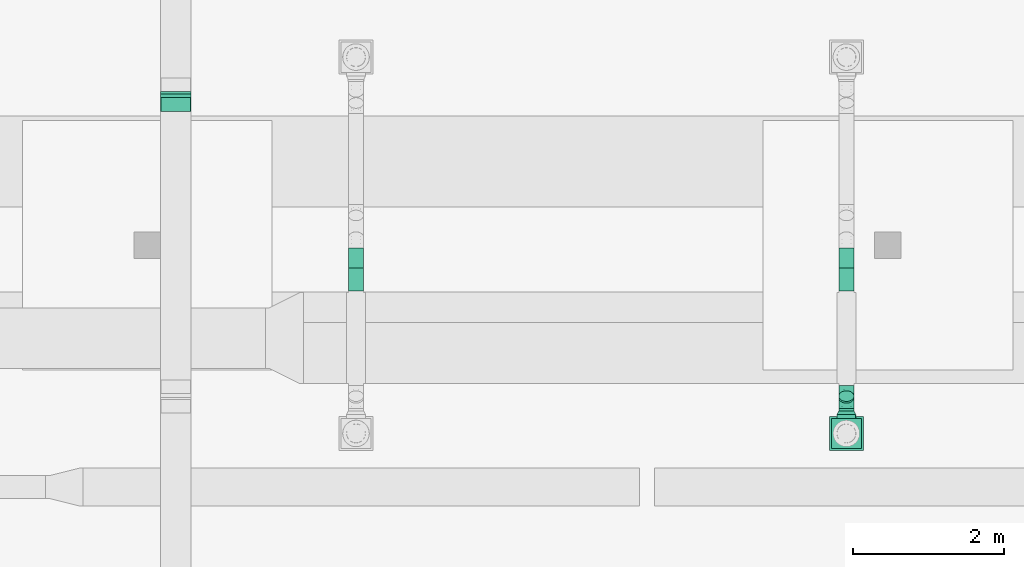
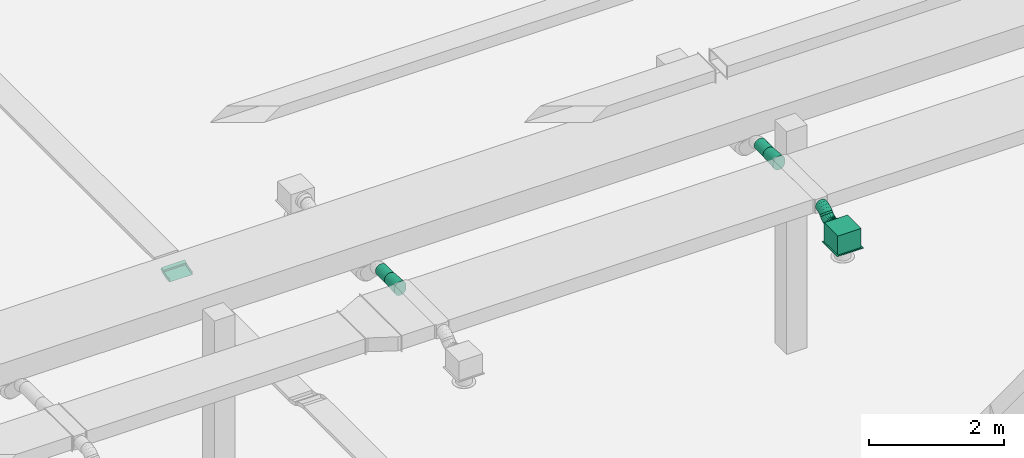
# One storey, part 277 of 302: 6 flow fittings, 5 flow segments, 1 flow terminal.
"""IFC2X3 building model written with IfcOpenShell, lengths in metres."""

import ifcopenshell
import ifcopenshell.guid

model = None  # the IFC model being written
_history = None  # IfcOwnerHistory: only IFC2X3 demands one
_inside = {}  # id of a spatial element -> (the spatial element, [elements in it])
_under = {}  # id of a project, library or spatial element -> (it, [spatial elements below it])
_declared = {}  # id of a project -> (the project, [libraries it declares])
_typed = {}  # id of a type object -> (the type object, [elements of that type])
_made_of = {}  # id of a material, layer set ... -> (it, [elements and type objects made of it])


def new_model(schema):
    """Start an empty IFC model of exactly this schema.

    Asked for "IFC4X3", IfcOpenShell would pick the latest addendum, in which some entities
    have other attributes; the version numbers below select the first issue.
    IFC2X3 requires an IfcOwnerHistory on every rooted entity: one is made here for all.
    """
    global model, _history
    if schema == "IFC4X3":
        model = ifcopenshell.file(schema_version=(4, 3, 0, 0))
    else:
        model = ifcopenshell.file(schema=schema)
    _inside.clear()
    _under.clear()
    _declared.clear()
    _typed.clear()
    _made_of.clear()
    _history = None
    if model.schema == "IFC2X3":
        org = make("IfcOrganization", Name="unknown")
        user = make(
            "IfcPersonAndOrganization",
            ThePerson=make("IfcPerson", FamilyName="unknown"),
            TheOrganization=org,
        )
        app = make(
            "IfcApplication",
            ApplicationDeveloper=org,
            Version="unknown",
            ApplicationFullName="unknown",
            ApplicationIdentifier="unknown",
        )
        _history = make(
            "IfcOwnerHistory",
            OwningUser=user,
            OwningApplication=app,
            ChangeAction="ADDED",
            CreationDate=0,
        )
    return model


def make(cls, **values):
    """One entity of the class cls with the attributes given. An attribute that is None is left unset."""
    return model.create_entity(
        cls, **{name: value for name, value in values.items() if value is not None}
    )


def entity(cls, *values):
    """Any entity or typed value of the class cls, its attributes in the order of the schema. None: left unset."""
    e = model.create_entity(cls)
    for i, value in enumerate(values):
        if value is not None:
            e[i] = value
    return e


def rooted(cls, **values):
    """An entity with a GlobalId (a new one), such as an element, a storey or a relation."""
    return make(cls, GlobalId=ifcopenshell.guid.new(), OwnerHistory=_history, **values)


def si_unit(unit_type, name, prefix=None):
    """IfcSIUnit, for example si_unit("LENGTHUNIT", "METRE", prefix="MILLI")."""
    return make("IfcSIUnit", UnitType=unit_type, Prefix=prefix, Name=name)


def converted_unit(unit_type, name, factor, base, dimensions=None, offset=None):
    """IfcConversionBasedUnit, such as the inch: factor (a typed value) times the base unit."""
    return make(
        "IfcConversionBasedUnit"
        if offset is None
        else "IfcConversionBasedUnitWithOffset",
        ConversionOffset=offset,
        Dimensions=None
        if dimensions is None
        else entity("IfcDimensionalExponents", *dimensions),
        UnitType=unit_type,
        Name=name,
        ConversionFactor=make(
            "IfcMeasureWithUnit", ValueComponent=factor, UnitComponent=base
        ),
    )


def derived_unit(unit_type, elements):
    """IfcDerivedUnit: a product of units, each with its exponent."""
    return make(
        "IfcDerivedUnit",
        Elements=[
            make("IfcDerivedUnitElement", Unit=unit, Exponent=power)
            for unit, power in elements
        ],
        UnitType=unit_type,
    )


def assignment(units):
    """IfcUnitAssignment: the units of a project."""
    return None if units is None else make("IfcUnitAssignment", Units=units)


def point(xyz):
    """IfcCartesianPoint."""
    return None if xyz is None else make("IfcCartesianPoint", Coordinates=xyz)


def direction(xyz):
    """IfcDirection."""
    return None if xyz is None else make("IfcDirection", DirectionRatios=xyz)


def frame(location, z_axis=None, x_axis=None):
    """IfcAxis2Placement3D, a coordinate frame: its origin and axes. An axis left out is left unset."""
    return make(
        "IfcAxis2Placement3D",
        Location=point(location),
        Axis=direction(z_axis),
        RefDirection=direction(x_axis),
    )


def frame_2d(location, x_axis=None):
    """IfcAxis2Placement2D, a coordinate frame in the plane: its origin and x axis."""
    return make(
        "IfcAxis2Placement2D", Location=point(location), RefDirection=direction(x_axis)
    )


def origin():
    """The frame at (0, 0, 0) with its axes left unset."""
    return frame((0.0, 0.0, 0.0))


def origin_2d_with_axis():
    """The frame at (0, 0) in the plane with the x axis (1, 0) written out."""
    return frame_2d((0.0, 0.0), x_axis=(1.0, 0.0))


def place(relative_to, where):
    """IfcLocalPlacement: puts the frame where relative to a parent placement (None: the world)."""
    return make(
        "IfcLocalPlacement", PlacementRelTo=relative_to, RelativePlacement=where
    )


def context(
    kind, dimensions, precision=None, world=None, true_north=None, identifier=None
):
    """IfcGeometricRepresentationContext, for example the 3D "Model" context."""
    return make(
        "IfcGeometricRepresentationContext",
        ContextIdentifier=identifier,
        ContextType=kind,
        CoordinateSpaceDimension=dimensions,
        Precision=precision,
        WorldCoordinateSystem=world,
        TrueNorth=true_north,
    )


def subcontext(parent, identifier, kind, view, scale=None):
    """IfcGeometricRepresentationSubContext, for example "Body" below "Model"."""
    return make(
        "IfcGeometricRepresentationSubContext",
        ContextIdentifier=identifier,
        ContextType=kind,
        ParentContext=parent,
        TargetScale=scale,
        TargetView=view,
    )


def project(units=None, contexts=None):
    """IfcProject with its units and contexts."""
    return rooted(
        "IfcProject",
        Name="project",
        RepresentationContexts=contexts,
        UnitsInContext=assignment(units),
    )


def spatial(cls, under=None, at=None, **own):
    """A site, building, storey or space (cls), placed at a placement, below another one or the project."""
    s = rooted(cls, ObjectPlacement=at, **own)
    if under is not None:
        _under.setdefault(under.id(), (under, []))[1].append(s)
    return s


def profile(cls, at=None, kind="AREA", **sizes):
    """A parametric profile (cls). Its sizes go by their IFC names, for example OverallWidth=200.0."""
    return make(cls, ProfileType=kind, Position=at, **sizes)


def rectangle(**sizes):
    """IfcRectangleProfileDef."""
    return profile("IfcRectangleProfileDef", **sizes)


def circle(**sizes):
    """IfcCircleProfileDef."""
    return profile("IfcCircleProfileDef", **sizes)


def extrude(swept, where, along, depth):
    """IfcExtrudedAreaSolid: the profile swept, set in the frame where, extruded along a direction by depth."""
    return make(
        "IfcExtrudedAreaSolid",
        SweptArea=swept,
        Position=where,
        ExtrudedDirection=direction(along),
        Depth=depth,
    )


def faces_of(points, faces, orient=None, outer=None):
    """IfcFace entities. A face is a list of loops; a loop is a list of indices into points, from 0.

    orient and outer hold one flag for each loop. By default every Orientation is true, the
    first loop of a face is its IfcFaceOuterBound and the others are IfcFaceBound.
    """
    made = []
    for i, loops in enumerate(faces):
        bounds = []
        for j, loop in enumerate(loops):
            is_outer = j == 0 if outer is None else outer[i][j]
            bounds.append(
                make(
                    "IfcFaceOuterBound" if is_outer else "IfcFaceBound",
                    Bound=make("IfcPolyLoop", Polygon=[points[k] for k in loop]),
                    Orientation=True if orient is None else orient[i][j],
                )
            )
        made.append(make("IfcFace", Bounds=bounds))
    return made


def faceted_brep(points, faces, orient=None, outer=None, voids=None):
    """IfcFacetedBrep: a solid bounded by flat faces; with voids (closed shells), ...WithVoids."""
    shared = [point(p) for p in points]
    hull = make("IfcClosedShell", CfsFaces=faces_of(shared, faces, orient, outer))
    if voids is None:
        return make("IfcFacetedBrep", Outer=hull)
    return make(
        "IfcFacetedBrepWithVoids",
        Outer=hull,
        Voids=[
            make(cls, CfsFaces=faces_of(shared, fs, o, b)) for cls, fs, o, b in voids
        ],
    )


def shape(context_of_items, identifier, shape_type, items):
    """IfcShapeRepresentation: the items that make up one representation, for example the "Body"."""
    return make(
        "IfcShapeRepresentation",
        ContextOfItems=context_of_items,
        RepresentationIdentifier=identifier,
        RepresentationType=shape_type,
        Items=items,
    )


def source(mapping_origin, context_of_items, identifier, shape_type, items):
    """IfcRepresentationMap: a shape defined once, which mapped items show again and again."""
    return make(
        "IfcRepresentationMap",
        MappingOrigin=mapping_origin,
        MappedRepresentation=shape(context_of_items, identifier, shape_type, items),
    )


def transform(
    local_origin,
    x_axis=None,
    y_axis=None,
    z_axis=None,
    scale=None,
    scale2=None,
    scale3=None,
    uniform=True,
):
    """IfcCartesianTransformationOperator3D, or its non-uniform kind. x_axis, y_axis, z_axis: its Axis1, 2, 3."""
    if uniform:
        return make(
            "IfcCartesianTransformationOperator3D",
            Axis1=direction(x_axis),
            Axis2=direction(y_axis),
            LocalOrigin=point(local_origin),
            Scale=scale,
            Axis3=direction(z_axis),
        )
    return make(
        "IfcCartesianTransformationOperator3DnonUniform",
        Axis1=direction(x_axis),
        Axis2=direction(y_axis),
        LocalOrigin=point(local_origin),
        Scale=scale,
        Axis3=direction(z_axis),
        Scale2=scale2,
        Scale3=scale3,
    )


def mapped(mapping_source, mapping_target):
    """IfcMappedItem: shows the shape of a source again, moved by a transform."""
    return make(
        "IfcMappedItem", MappingSource=mapping_source, MappingTarget=mapping_target
    )


def material(Name=None, Category=None):
    """IfcMaterial."""
    return make("IfcMaterial", Name=Name, Category=Category)


def material_list(materials):
    """IfcMaterialList."""
    return make("IfcMaterialList", Materials=materials)


def made_of(thing, what):
    """Note that an element or type object is made of a material, layer set ...; save() writes the relation."""
    if what is not None:
        _made_of.setdefault(what.id(), (what, []))[1].append(thing)
    return thing


def type_object(cls, material=None, **own):
    """A type object (cls), such as IfcWallType, which elements share."""
    return made_of(rooted(cls, **own), material)


def type_shapes(of_type, sources):
    """Give a type object the sources (RepresentationMaps) that its elements show as mapped items."""
    of_type.RepresentationMaps = sources


def element(
    cls,
    number,
    at=None,
    inside=None,
    cuts=None,
    type_object=None,
    material=None,
    context=None,
    identifier="Body",
    shape_type=None,
    held_by="IfcProductDefinitionShape",
    body=None,
    shapes=None,
    **own,
):
    """One element of the class cls, such as IfcWall. Its Tag is "e" and its number.

    at: its placement. inside: the storey or other place that contains it. cuts: it is an
    opening in that element (IfcRelVoidsElement). A single representation is given by context,
    identifier, shape_type and body (its items); several are given by shapes. held_by: the class
    of the entity that holds the representations. save() writes the other relations.
    """
    e = rooted(cls, Tag="e%d" % number, ObjectPlacement=at, **own)
    if body is not None:
        shapes = [shape(context, identifier, shape_type, body)]
    if shapes is not None:
        e.Representation = make(held_by, Representations=shapes)
    if inside is not None:
        _inside.setdefault(inside.id(), (inside, []))[1].append(e)
    if cuts is not None:
        rooted(
            "IfcRelVoidsElement", RelatingBuildingElement=cuts, RelatedOpeningElement=e
        )
    if type_object is not None:
        _typed.setdefault(type_object.id(), (type_object, []))[1].append(e)
    return made_of(e, material)


def aggregate(whole, parts):
    """IfcRelAggregates: a whole, such as a stair, and the parts it consists of."""
    return rooted("IfcRelAggregates", RelatingObject=whole, RelatedObjects=parts)


def save(model, path):
    """Write the relations noted so far, then the file.

    IfcRelAggregates (storeys below a building ...), IfcRelContainedInSpatialStructure (elements
    in a storey), IfcRelDefinesByType, IfcRelAssociatesMaterial and IfcRelDeclares: one each for
    every whole, place, type object, material and project.
    """
    for whole, parts in _under.values():
        aggregate(whole, parts)
    for where, things in _inside.values():
        rooted(
            "IfcRelContainedInSpatialStructure",
            RelatedElements=things,
            RelatingStructure=where,
        )
    for kind, things in _typed.values():
        rooted("IfcRelDefinesByType", RelatedObjects=things, RelatingType=kind)
    for what, things in _made_of.values():
        rooted("IfcRelAssociatesMaterial", RelatedObjects=things, RelatingMaterial=what)
    for by, libraries in _declared.values():
        rooted("IfcRelDeclares", RelatingContext=by, RelatedDefinitions=libraries)
    model.write(path)


model = new_model("IFC2X3")

# Units and contexts
model_context = context("Model", 3, precision=1e-05, world=origin(), true_north=direction((6.12303176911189e-17, 1.0)))
body_context = subcontext(model_context, "Body", "Model", "MODEL_VIEW")
ifc_project = project(units=[si_unit("LENGTHUNIT", "METRE"), si_unit("AREAUNIT", "SQUARE_METRE"), si_unit("VOLUMEUNIT", "CUBIC_METRE"), converted_unit("PLANEANGLEUNIT", "DEGREE", entity("IfcRatioMeasure", 0.0174532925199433), si_unit("PLANEANGLEUNIT", "RADIAN"), dimensions=[0, 0, 0, 0, 0, 0, 0]), si_unit("MASSUNIT", "GRAM", prefix="KILO"), derived_unit("MASSDENSITYUNIT", [(si_unit("MASSUNIT", "GRAM", prefix="KILO"), 1), (si_unit("LENGTHUNIT", "METRE"), -3)]), derived_unit("MOMENTOFINERTIAUNIT", [(si_unit("LENGTHUNIT", "METRE"), 4)]), si_unit("TIMEUNIT", "SECOND"), si_unit("FREQUENCYUNIT", "HERTZ"), si_unit("THERMODYNAMICTEMPERATUREUNIT", "DEGREE_CELSIUS"), derived_unit("THERMALTRANSMITTANCEUNIT", [(si_unit("MASSUNIT", "GRAM", prefix="KILO"), 1), (si_unit("THERMODYNAMICTEMPERATUREUNIT", "KELVIN"), -1), (si_unit("TIMEUNIT", "SECOND"), -3)]), derived_unit("VOLUMETRICFLOWRATEUNIT", [(si_unit("LENGTHUNIT", "METRE"), 3), (si_unit("TIMEUNIT", "SECOND"), -1)]), si_unit("ELECTRICCURRENTUNIT", "AMPERE"), si_unit("ELECTRICVOLTAGEUNIT", "VOLT"), si_unit("POWERUNIT", "WATT"), si_unit("FORCEUNIT", "NEWTON", prefix="KILO"), si_unit("ILLUMINANCEUNIT", "LUX"), si_unit("LUMINOUSFLUXUNIT", "LUMEN"), si_unit("LUMINOUSINTENSITYUNIT", "CANDELA"), derived_unit("USERDEFINED", [(si_unit("MASSUNIT", "GRAM", prefix="KILO"), -1), (si_unit("LENGTHUNIT", "METRE"), -2), (si_unit("TIMEUNIT", "SECOND"), 3), (si_unit("LUMINOUSFLUXUNIT", "LUMEN"), 1)]), derived_unit("LINEARVELOCITYUNIT", [(si_unit("LENGTHUNIT", "METRE"), 1), (si_unit("TIMEUNIT", "SECOND"), -1)]), si_unit("PRESSUREUNIT", "PASCAL"), derived_unit("USERDEFINED", [(si_unit("LENGTHUNIT", "METRE"), -2), (si_unit("MASSUNIT", "GRAM", prefix="KILO"), 1), (si_unit("TIMEUNIT", "SECOND"), -2)]), derived_unit("LINEARFORCEUNIT", [(si_unit("MASSUNIT", "GRAM", prefix="KILO"), 1), (si_unit("LENGTHUNIT", "METRE"), 1), (si_unit("TIMEUNIT", "SECOND"), -2), (si_unit("LENGTHUNIT", "METRE"), -1)]), derived_unit("PLANARFORCEUNIT", [(si_unit("MASSUNIT", "GRAM", prefix="KILO"), 1), (si_unit("LENGTHUNIT", "METRE"), 1), (si_unit("TIMEUNIT", "SECOND"), -2), (si_unit("LENGTHUNIT", "METRE"), -2)])], contexts=[model_context])

# Site, building, storey
site_placement = place(None, origin())
site = spatial("IfcSite", under=ifc_project, at=site_placement, Name="Default", CompositionType="ELEMENT")
building_placement = place(site_placement, origin())
building = spatial("IfcBuilding", under=site, at=building_placement, CompositionType="ELEMENT")
storey_placement = place(building_placement, frame((0.0, 0.0, -1.3)))
storey = spatial("IfcBuildingStorey", under=building, at=storey_placement, Name="00_EG", CompositionType="ELEMENT", Elevation=-1.3)

# Flow segment
cable_carrier_segment_type = type_object("IfcCableCarrierSegmentType", Name="Kabeltrasse mit Formteilen:Channel Cable Tray", PredefinedType="CABLETRAYSEGMENT")
flow_segment_1_placement = place(storey_placement, origin())
element("IfcFlowSegment", 1, at=flow_segment_1_placement, inside=storey, type_object=cable_carrier_segment_type, Name="Kabeltrasse mit Formteilen:Channel Cable Tray", ObjectType="Kabeltrasse mit Formteilen:Channel Cable Tray", context=body_context, shape_type="SweptSolid", body=[
    extrude(rectangle(XDim=0.0600000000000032, YDim=0.0578549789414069, at=frame_2d((1.93074722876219e-15, -9.8358821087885e-16), x_axis=(0.0, 1.0))), frame((-236.972611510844, 25.4381035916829, 4.79), z_axis=(1.0, 0.0, 0.0), x_axis=(0.0, 0.891006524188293, 0.453990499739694)), (0.0, 0.0, 1.0), 0.399999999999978),
])

# Flow fitting
ifc_material = material(Name="<Unnamed>")
cable_carrier_fitting_type = type_object("IfcCableCarrierFittingType", Name="Kabeltrasse - Bogen innen vertikal:Standard", PredefinedType="NOTDEFINED", material=ifc_material)
shared_shape_1 = source(origin(), body_context, "Body", "Brep", [
    faceted_brep([(-0.103233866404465, -0.0299999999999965, 0.199999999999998), (-0.103233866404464, 0.0300000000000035, 0.199999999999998), (-0.103233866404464, 0.0300000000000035, -0.200000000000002), (-0.103233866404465, -0.0299999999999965, -0.200000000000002), (-0.103233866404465, -0.0299999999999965, -0.197460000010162), (-0.103233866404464, 0.0274600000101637, -0.197460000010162), (-0.103233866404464, 0.0274600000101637, 0.197460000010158), (-0.103233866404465, -0.0299999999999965, 0.197460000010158), (0.0783623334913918, -0.0735973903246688, 0.199999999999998), (0.0783623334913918, -0.0735973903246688, 0.197460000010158), (0.104448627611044, -0.0224001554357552, 0.197460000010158), (0.104448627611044, -0.0224001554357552, -0.197460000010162), (0.0783623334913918, -0.0735973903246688, -0.197460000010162), (0.0783623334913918, -0.0735973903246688, -0.200000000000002), (0.10560176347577, -0.0201369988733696, -0.200000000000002), (0.10560176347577, -0.0201369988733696, 0.199999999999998), (-0.0558907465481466, -0.0299999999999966, 0.197460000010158), (-0.0558907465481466, -0.0299999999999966, 0.199999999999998), (-0.0490899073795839, 0.0274600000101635, 0.197460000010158), (0.0562060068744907, 0.00218068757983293, 0.197460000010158), (0.036179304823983, -0.0521040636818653, 0.197460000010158), (-0.0490899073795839, 0.0274600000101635, -0.197460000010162), (-0.0558907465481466, -0.0299999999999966, -0.197460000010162), (0.036179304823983, -0.0521040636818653, -0.197460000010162), (0.0562060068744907, 0.00218068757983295, -0.197460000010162), (-0.0558907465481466, -0.0299999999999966, -0.200000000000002), (-0.0487892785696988, 0.0300000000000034, -0.200000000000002), (0.0570912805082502, 0.00458032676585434, -0.200000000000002), (0.036179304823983, -0.0521040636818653, -0.200000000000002), (-0.0487892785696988, 0.0300000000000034, 0.199999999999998), (0.036179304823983, -0.0521040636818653, 0.199999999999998), (0.0570912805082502, 0.00458032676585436, 0.199999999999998)], [[[0, 1, 2, 3, 4, 5, 6, 7]], [[8, 9, 10, 11, 12, 13, 14, 15]], [[7, 16, 17, 0]], [[6, 18, 19, 10, 9, 20, 16, 7]], [[5, 21, 18, 6]], [[4, 22, 23, 12, 11, 24, 21, 5]], [[3, 25, 22, 4]], [[2, 26, 27, 14, 13, 28, 25, 3]], [[1, 29, 26, 2]], [[0, 17, 30, 8, 15, 31, 29, 1]], [[16, 20, 30, 17]], [[21, 24, 19, 18]], [[25, 28, 23, 22]], [[29, 31, 27, 26]], [[20, 9, 8, 30]], [[24, 11, 10, 19]], [[28, 13, 12, 23]], [[31, 15, 14, 27]]]),
])
type_shapes(cable_carrier_fitting_type, [shared_shape_1])
flow_fitting_1_placement = place(storey_placement, frame((-236.772611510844, 25.3203469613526, 4.72999999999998), z_axis=(1.0, 0.0, 0.0), x_axis=(0.0, -0.89100652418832, -0.453990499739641)))
element("IfcFlowFitting", 2, at=flow_fitting_1_placement, inside=storey, type_object=cable_carrier_fitting_type, material=ifc_material, Name="Kabeltrasse - Bogen innen vertikal:Standard", ObjectType="Kabeltrasse - Bogen innen vertikal:Standard", context=body_context, shape_type="MappedRepresentation", body=[
    mapped(shared_shape_1, transform((0.0, 0.0, 0.0), scale=1.0)),
])

# Flow segments
duct_segment_type = type_object("IfcDuctSegmentType", Name="Rund:STR_Segment_RND_GS_EA", PredefinedType="NOTDEFINED")
flow_segment_2_placement = place(storey_placement, origin())
element("IfcFlowSegment", 3, at=flow_segment_2_placement, inside=storey, type_object=duct_segment_type, Name="Rund:STR_Segment_RND_GS_EA", ObjectType="Rund:STR_Segment_RND_GS_EA", context=body_context, shape_type="SweptSolid", body=[
    extrude(circle(Radius=0.1, at=origin_2d_with_axis()), frame((-227.909394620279, 23.1468155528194, 5.125), z_axis=(0.0, 1.0, 0.0), x_axis=(1.0, 0.0, 0.0)), (0.0, 0.0, 1.0), 0.267157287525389),
])
flow_segment_3_placement = place(storey_placement, origin())
element("IfcFlowSegment", 4, at=flow_segment_3_placement, inside=storey, type_object=duct_segment_type, Name="Rund:STR_Segment_RND_GS_EA", ObjectType="Rund:STR_Segment_RND_GS_EA", context=body_context, shape_type="SweptSolid", body=[
    extrude(circle(Radius=0.1, at=frame_2d((0.0, -3.06281271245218e-15), x_axis=(1.0, 0.0))), frame((-227.909394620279, 21.4325516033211, 5.04357873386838), z_axis=(0.0, 0.707106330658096, 0.707107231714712), x_axis=(1.0, 0.0, 0.0)), (0.0, 0.0, 1.0), 0.0323041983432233),
])
flow_segment_4_placement = place(storey_placement, origin())
element("IfcFlowSegment", 5, at=flow_segment_4_placement, inside=storey, type_object=duct_segment_type, Name="Rund:STR_Segment_RND_GS_EA", ObjectType="Rund:STR_Segment_RND_GS_EA", context=body_context, shape_type="SweptSolid", body=[
    extrude(circle(Radius=0.1, at=origin_2d_with_axis()), frame((-227.909394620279, 21.2618155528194, 4.985), z_axis=(0.0, 1.0, 0.0), x_axis=(1.0, 0.0, 0.0)), (0.0, 0.0, 1.0), 0.0293146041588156),
])
flow_segment_5_placement = place(storey_placement, origin())
element("IfcFlowSegment", 6, at=flow_segment_5_placement, inside=storey, type_object=duct_segment_type, Name="Rund:STR_Segment_RND_GS_EA", ObjectType="Rund:STR_Segment_RND_GS_EA", context=body_context, shape_type="SweptSolid", body=[
    extrude(circle(Radius=0.1, at=origin_2d_with_axis()), frame((-234.389904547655, 23.1468155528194, 5.125), z_axis=(0.0, 1.0, 0.0), x_axis=(1.0, 0.0, 0.0)), (0.0, 0.0, 1.0), 0.267157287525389),
])

# Flow fittings
duct_fitting_type_1 = type_object("IfcDuctFittingType", Name="STR_OVL_Transition:STR_Transition_OVL_GS_EA", PredefinedType="NOTDEFINED", material=ifc_material)
shared_shape_2 = source(origin(), body_context, "Body", "Brep", [
    faceted_brep([(0.300000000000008, 0.0999999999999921, 0.00158749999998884), (0.300000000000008, 0.0966466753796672, 0.0270585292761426), (0.300000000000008, 0.0868152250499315, 0.050793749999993), (0.300000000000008, 0.0711756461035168, 0.0711756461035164), (0.300000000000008, 0.0507937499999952, 0.0868152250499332), (0.300000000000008, 0.0270585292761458, 0.0966466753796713), (0.300000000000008, 0.00158749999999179, 0.0999999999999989), (0.300000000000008, -0.00158750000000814, 0.0999999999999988), (0.300000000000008, -0.0270585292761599, 0.0966466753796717), (0.300000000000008, -0.0507937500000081, 0.0868152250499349), (0.300000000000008, -0.0711756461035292, 0.07117564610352), (0.300000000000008, -0.0868152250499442, 0.0507937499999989), (0.300000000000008, -0.0966466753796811, 0.0270585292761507), (0.300000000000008, -0.100000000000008, 0.00158749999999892), (0.300000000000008, -0.100000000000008, -0.00158750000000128), (0.300000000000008, -0.0966466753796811, -0.0270585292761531), (0.300000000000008, -0.0868152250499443, -0.0507937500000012), (0.300000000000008, -0.0711756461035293, -0.0711756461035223), (0.300000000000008, -0.0507937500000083, -0.0868152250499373), (0.300000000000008, -0.0270585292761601, -0.0966466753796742), (0.300000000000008, -0.00158750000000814, -0.100000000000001), (0.300000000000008, 0.0015874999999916, -0.100000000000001), (0.300000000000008, 0.0270585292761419, -0.0966466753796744), (0.300000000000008, 0.0507937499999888, -0.0868152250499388), (0.300000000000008, 0.0711756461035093, -0.0711756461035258), (0.300000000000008, 0.0868152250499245, -0.0507937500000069), (0.300000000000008, 0.0966466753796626, -0.0270585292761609), (0.300000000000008, 0.0999999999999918, -0.00158750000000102), (0.0, 0.00158749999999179, -0.125000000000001), (0.0, -0.00158750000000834, -0.125000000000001), (0.0, -0.0270585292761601, -0.121646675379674), (0.0, -0.0507937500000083, -0.111815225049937), (0.0, -0.0711756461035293, -0.0961756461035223), (0.0, -0.0868152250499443, -0.0757937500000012), (0.0, -0.0966466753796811, -0.0520585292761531), (0.0, -0.100000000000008, -0.026587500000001), (0.0, -0.100000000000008, 0.0265874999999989), (0.0, -0.0966466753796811, 0.0520585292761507), (0.0, -0.0868152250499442, 0.0757937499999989), (0.0, -0.0711756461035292, 0.0961756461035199), (0.0, -0.0507937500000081, 0.111815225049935), (0.0, -0.0270585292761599, 0.121646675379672), (0.0, -0.00158750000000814, 0.124999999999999), (0.0, 0.00158749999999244, 0.124999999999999), (0.0, 0.0270585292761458, 0.121646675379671), (0.0, 0.0507937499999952, 0.111815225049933), (0.0, 0.0711756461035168, 0.0961756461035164), (0.0, 0.0868152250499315, 0.0757937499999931), (0.0, 0.0966466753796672, 0.0520585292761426), (0.0, 0.0999999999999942, 0.026587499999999), (0.0, 0.0999999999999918, -0.0265875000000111), (0.0, 0.0966466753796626, -0.052058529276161), (0.0, 0.0868152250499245, -0.0757937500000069), (0.0, 0.0711756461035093, -0.0961756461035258), (0.0, 0.0507937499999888, -0.111815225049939), (0.0, 0.0270585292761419, -0.121646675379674), (0.154247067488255, -0.0203412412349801, 0.110342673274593), (0.145752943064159, -0.0981965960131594, 0.03319516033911), (0.107489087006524, -0.00158750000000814, 0.116042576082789), (0.149999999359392, -0.0614972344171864, 0.0921633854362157), (0.15000000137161, -0.0392483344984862, 0.105008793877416), (0.150000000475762, -0.0796633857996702, 0.0739972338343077), (0.192510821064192, -0.100000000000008, 0.0105449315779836), (0.149999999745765, -0.0925087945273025, 0.0517483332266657), (0.107489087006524, -0.100000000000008, -0.0176300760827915), (0.154247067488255, -0.0981965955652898, -0.0324873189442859), (0.145752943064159, -0.0203412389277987, -0.111050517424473), (0.149999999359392, -0.0796633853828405, -0.0739972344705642), (0.15000000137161, -0.0925087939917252, -0.0517483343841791), (0.150000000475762, -0.0614972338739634, -0.0921633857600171), (0.192511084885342, -0.00158750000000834, -0.10895740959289), (0.149999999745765, -0.0392483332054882, -0.105008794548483), (0.107489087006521, 0.0015874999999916, -0.116042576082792), (0.154247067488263, 0.0203412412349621, -0.110342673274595), (0.145752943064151, 0.0981965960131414, -0.0331951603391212), (0.149999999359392, 0.0614972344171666, -0.0921633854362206), (0.15000000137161, 0.0392483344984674, -0.105008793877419), (0.150000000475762, 0.0796633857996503, -0.0739972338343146), (0.192510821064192, 0.0999999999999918, -0.0105449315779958), (0.149999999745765, 0.0925087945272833, -0.0517483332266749), (0.107489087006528, 0.0999999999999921, 0.0176300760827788), (0.154247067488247, 0.0981965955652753, 0.0324873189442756), (0.145752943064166, 0.0203412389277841, 0.11105051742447), (0.149999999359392, 0.079663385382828, 0.0739972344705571), (0.15000000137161, 0.0925087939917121, 0.0517483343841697), (0.150000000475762, 0.0614972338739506, 0.0921633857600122), (0.192510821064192, 0.00158749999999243, 0.108957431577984), (0.149999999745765, 0.0392483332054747, 0.105008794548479)], [[[0, 1, 2, 3, 4, 5, 6, 7, 8, 9, 10, 11, 12, 13, 14, 15, 16, 17, 18, 19, 20, 21, 22, 23, 24, 25, 26, 27]], [[28, 29, 30, 31, 32, 33, 34, 35, 36, 37, 38, 39, 40, 41, 42, 43, 44, 45, 46, 47, 48, 49, 50, 51, 52, 53, 54, 55]], [[56, 42, 41]], [[36, 57, 37]], [[56, 7, 58, 42]], [[40, 39, 59]], [[41, 60, 56]], [[59, 60, 40]], [[61, 59, 39]], [[41, 40, 60]], [[8, 56, 60]], [[10, 9, 59]], [[9, 60, 59]], [[57, 36, 62, 13]], [[38, 37, 63]], [[63, 61, 38]], [[12, 57, 13]], [[12, 63, 57]], [[9, 8, 60]], [[10, 61, 11]], [[12, 11, 63]], [[63, 11, 61]], [[37, 57, 63]], [[61, 10, 59]], [[61, 39, 38]], [[7, 56, 8]], [[35, 64, 14, 13, 62, 36]], [[65, 35, 34]], [[29, 66, 30]], [[65, 14, 64, 35]], [[33, 32, 67]], [[34, 68, 65]], [[67, 68, 33]], [[69, 67, 32]], [[34, 33, 68]], [[15, 65, 68]], [[17, 16, 67]], [[16, 68, 67]], [[66, 29, 70, 20]], [[31, 30, 71]], [[71, 69, 31]], [[19, 66, 20]], [[19, 71, 66]], [[16, 15, 68]], [[17, 69, 18]], [[19, 18, 71]], [[71, 18, 69]], [[30, 66, 71]], [[69, 17, 67]], [[69, 32, 31]], [[14, 65, 15]], [[28, 72, 21, 20, 70, 29]], [[73, 28, 55]], [[50, 74, 51]], [[73, 21, 72, 28]], [[54, 53, 75]], [[55, 76, 73]], [[75, 76, 54]], [[77, 75, 53]], [[55, 54, 76]], [[22, 73, 76]], [[24, 23, 75]], [[23, 76, 75]], [[74, 50, 78, 27]], [[52, 51, 79]], [[79, 77, 52]], [[26, 74, 27]], [[26, 79, 74]], [[23, 22, 76]], [[24, 77, 25]], [[26, 25, 79]], [[79, 25, 77]], [[51, 74, 79]], [[77, 24, 75]], [[77, 53, 52]], [[21, 73, 22]], [[49, 80, 0, 27, 78, 50]], [[81, 49, 48]], [[43, 82, 44]], [[81, 0, 80, 49]], [[47, 46, 83]], [[48, 84, 81]], [[83, 84, 47]], [[85, 83, 46]], [[48, 47, 84]], [[1, 81, 84]], [[3, 2, 83]], [[2, 84, 83]], [[82, 43, 86, 6]], [[45, 44, 87]], [[87, 85, 45]], [[5, 82, 6]], [[5, 87, 82]], [[2, 1, 84]], [[3, 85, 4]], [[5, 4, 87]], [[87, 4, 85]], [[44, 82, 87]], [[85, 3, 83]], [[85, 46, 45]], [[0, 81, 1]], [[42, 58, 7, 6, 86, 43]]]),
])
type_shapes(duct_fitting_type_1, [shared_shape_2])
for number, where, z_axis, x_axis in (
    (7, (-227.909394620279, 22.8468155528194, 5.125), (0.0, 0.0, 1.0), (0.0, 1.0, 0.0)),
    (8, (-234.389904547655, 22.8468155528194, 5.125), (0.0, 0.0, 1.0), (0.0, 1.0, 0.0)),
):
    element("IfcFlowFitting", number, at=place(storey_placement, frame(where, z_axis=z_axis, x_axis=x_axis)), inside=storey, type_object=duct_fitting_type_1, material=ifc_material, Name="STR_OVL_Transition:STR_Transition_OVL_GS_EA", ObjectType="STR_OVL_Transition:STR_Transition_OVL_GS_EA", context=body_context, shape_type="MappedRepresentation", body=[
        mapped(shared_shape_2, transform((0.0, 0.0, 0.0), scale=1.0)),
    ])
duct_fitting_type_2 = type_object("IfcDuctFittingType", Name="STR_RND_Transition:STR_Transition_RND_GS_EA", PredefinedType="NOTDEFINED", material=ifc_material)
shared_shape_3 = source(origin(), body_context, "Body", "Brep", [
    faceted_brep([(0.0500000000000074, -0.0587785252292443, -0.0809016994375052), (0.0500000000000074, -0.0309016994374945, -0.0951056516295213), (0.0500000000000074, 0.0, -0.10000000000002), (0.0500000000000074, 0.0309016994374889, -0.0951056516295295), (0.0500000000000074, 0.058778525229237, -0.0809016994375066), (0.0500000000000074, 0.0809016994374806, -0.0587785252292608), (0.0500000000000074, 0.0951056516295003, -0.0309016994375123), (0.0500000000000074, 0.0999999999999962, 0.0), (0.0500000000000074, 0.0951056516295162, 0.0309016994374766), (0.0500000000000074, 0.0809016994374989, 0.0587785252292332), (0.0500000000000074, 0.0587785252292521, 0.0809016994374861), (0.0500000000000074, 0.0309016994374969, 0.0951056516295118), (0.0500000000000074, 0.0, 0.0999999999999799), (0.0500000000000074, -0.0309016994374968, 0.0951056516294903), (0.0500000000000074, -0.058778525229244, 0.0809016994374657), (0.0500000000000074, -0.0809016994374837, 0.0587785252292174), (0.0500000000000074, -0.0951056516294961, 0.0309016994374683), (0.0500000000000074, -0.100000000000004, 0.0), (0.0500000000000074, -0.0951056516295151, -0.030901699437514), (0.0500000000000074, -0.0809016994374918, -0.0587785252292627), (0.0, -0.124999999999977, 0.0), (0.0, -0.118882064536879, 0.038627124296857), (0.0, -0.101127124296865, 0.073473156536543), (0.0, -0.0734731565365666, 0.101127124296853), (0.0, -0.0386271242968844, 0.118882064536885), (0.0, 0.0, 0.125000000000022), (0.0, 0.0386271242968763, 0.11888206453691), (0.0, 0.0734731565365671, 0.101127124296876), (0.0, 0.101127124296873, 0.0734731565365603), (0.0, 0.118882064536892, 0.038627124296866), (0.0, 0.124999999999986, 0.0), (0.0, 0.118882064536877, -0.0386271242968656), (0.0, 0.101127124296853, -0.0734731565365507), (0.0, 0.0734731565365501, -0.101127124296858), (0.0, 0.0386271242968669, -0.118882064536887), (0.0, 0.0, -0.124999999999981), (0.0, -0.0386271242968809, -0.118882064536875), (0.0, -0.0734731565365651, -0.101127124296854), (0.0, -0.101127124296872, -0.0734731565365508), (0.0, -0.118882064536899, -0.0386271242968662)], [[[0, 1, 2, 3, 4, 5, 6, 7, 8, 9, 10, 11, 12, 13, 14, 15, 16, 17, 18, 19]], [[20, 21, 22, 23, 24, 25, 26, 27, 28, 29, 30, 31, 32, 33, 34, 35, 36, 37, 38, 39]], [[26, 25, 12, 11]], [[27, 26, 11, 10]], [[10, 9, 28, 27]], [[8, 7, 30, 29]], [[9, 8, 29, 28]], [[21, 20, 17, 16]], [[22, 21, 16, 15]], [[15, 14, 23, 22]], [[13, 12, 25, 24]], [[14, 13, 24, 23]], [[36, 35, 2, 1]], [[37, 36, 1, 0]], [[0, 19, 38, 37]], [[18, 17, 20, 39]], [[19, 18, 39, 38]], [[31, 30, 7, 6]], [[32, 31, 6, 5]], [[5, 4, 33, 32]], [[3, 2, 35, 34]], [[4, 3, 34, 33]]]),
])
type_shapes(duct_fitting_type_2, [shared_shape_3])
flow_fitting_2_placement = place(storey_placement, frame((-227.909394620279, 21.2118155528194, 4.985), z_axis=(0.0, 0.0, 1.0), x_axis=(0.0, 1.0, 0.0)))
element("IfcFlowFitting", 9, at=flow_fitting_2_placement, inside=storey, type_object=duct_fitting_type_2, material=ifc_material, Name="STR_RND_Transition:STR_Transition_RND_GS_EA", ObjectType="STR_RND_Transition:STR_Transition_RND_GS_EA", context=body_context, shape_type="MappedRepresentation", body=[
    mapped(shared_shape_3, transform((0.0, 0.0, 0.0), scale=1.0)),
])
duct_fitting_type_3 = type_object("IfcDuctFittingType", Name="STR_RND_Elbow:STR_Elbow_RND_GS_EA", PredefinedType="NOTDEFINED", material=ifc_material)
shared_shape_4 = source(origin(), body_context, "Body", "Brep", [
    faceted_brep([(-0.0438246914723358, 0.00384295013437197, 0.0999999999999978), (-0.0498533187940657, 0.0341508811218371, 0.0951056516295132), (-0.0828427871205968, 0.0309016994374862, 0.0951056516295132), (-0.0828427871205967, 0.0, 0.0999999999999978), (-0.0552918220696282, 0.061492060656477, 0.0809016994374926), (-0.0828427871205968, 0.0587785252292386, 0.0809016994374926), (-0.0596078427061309, 0.0831901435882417, 0.0587785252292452), (-0.0828427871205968, 0.0809016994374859, 0.0587785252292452), (-0.0623788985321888, 0.097121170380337, 0.0309016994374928), (-0.0828427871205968, 0.0951056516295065, 0.0309016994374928), (-0.0633337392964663, 0.101921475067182, 0.0), (-0.0828427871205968, 0.0999999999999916, 0.0), (-0.0623788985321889, 0.0971211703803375, -0.030901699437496), (-0.0828427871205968, 0.095105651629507, -0.030901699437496), (-0.059607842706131, 0.0831901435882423, -0.0587785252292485), (-0.0828427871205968, 0.0809016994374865, -0.0587785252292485), (-0.0552918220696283, 0.0614920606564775, -0.0809016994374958), (-0.0828427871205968, 0.0587785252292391, -0.0809016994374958), (-0.0498533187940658, 0.0341508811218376, -0.0951056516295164), (-0.0828427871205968, 0.0309016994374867, -0.0951056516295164), (-0.043824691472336, 0.00384295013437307, -0.100000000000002), (-0.0828427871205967, 0.0, -0.100000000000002), (-0.037796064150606, -0.0264649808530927, -0.0951056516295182), (-0.0828427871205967, -0.0309016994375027, -0.0951056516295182), (-0.0323575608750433, -0.0538061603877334, -0.0809016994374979), (-0.0828427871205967, -0.0587785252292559, -0.0809016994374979), (-0.0280415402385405, -0.075504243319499, -0.0587785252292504), (-0.0828427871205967, -0.080901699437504, -0.0587785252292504), (-0.0252704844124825, -0.0894352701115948, -0.0309016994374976), (-0.0828427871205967, -0.0951056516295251, -0.0309016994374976), (-0.0243156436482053, -0.0942355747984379, 0.0), (-0.0828427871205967, -0.100000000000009, 0.0), (-0.0252704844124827, -0.0894352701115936, 0.0309016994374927), (-0.0828427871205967, -0.0951056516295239, 0.0309016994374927), (-0.0280415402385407, -0.0755042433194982, 0.0587785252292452), (-0.0828427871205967, -0.0809016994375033, 0.0587785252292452), (-0.0323575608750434, -0.0538061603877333, 0.0809016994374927), (-0.0828427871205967, -0.0587785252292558, 0.0809016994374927), (-0.0377960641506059, -0.0264649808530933, 0.0951056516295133), (-0.0828427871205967, -0.0309016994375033, 0.0951056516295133), (-0.00630604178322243, 0.0152241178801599, 0.0999999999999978), (-0.0181316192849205, 0.0437735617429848, 0.0951056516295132), (-0.028799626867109, 0.0695283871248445, 0.0809016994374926), (-0.037265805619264, 0.0899675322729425, 0.0587785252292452), (-0.0427014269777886, 0.103090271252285, 0.0309016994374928), (-0.0445744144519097, 0.107612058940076, 0.0), (-0.0427014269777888, 0.103090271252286, -0.030901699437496), (-0.0372658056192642, 0.089967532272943, -0.0587785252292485), (-0.0287996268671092, 0.069528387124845, -0.0809016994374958), (-0.0181316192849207, 0.0437735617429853, -0.0951056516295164), (-0.00630604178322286, 0.015224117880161, -0.100000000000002), (0.00551953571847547, -0.0133253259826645, -0.0951056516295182), (0.0161875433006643, -0.039080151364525, -0.0809016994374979), (0.0246537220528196, -0.0595192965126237, -0.0587785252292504), (0.0300893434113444, -0.0726420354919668, -0.0309016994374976), (0.0319623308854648, -0.077163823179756, 0.0), (0.0300893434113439, -0.0726420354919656, 0.0309016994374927), (0.0246537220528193, -0.059519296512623, 0.0587785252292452), (0.0161875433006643, -0.0390801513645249, 0.0809016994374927), (0.0055195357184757, -0.0133253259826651, 0.0951056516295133), (0.0282713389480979, 0.0337061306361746, 0.0999999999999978), (0.0111032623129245, 0.0593999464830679, 0.0951056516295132), (-0.00438428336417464, 0.0825786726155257, 0.0809016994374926), (-0.0166752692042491, 0.100973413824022, 0.0587785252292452), (-0.0245665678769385, 0.112783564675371, 0.0309016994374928), (-0.0272857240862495, 0.116853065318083, 0.0), (-0.0245665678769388, 0.112783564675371, -0.030901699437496), (-0.0166752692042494, 0.100973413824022, -0.0587785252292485), (-0.00438428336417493, 0.0825786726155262, -0.0809016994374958), (0.0111032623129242, 0.0593999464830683, -0.0951056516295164), (0.0282713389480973, 0.0337061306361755, -0.100000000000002), (0.0454394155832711, 0.00801231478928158, -0.0951056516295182), (0.0609269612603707, -0.0151664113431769, -0.0809016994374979), (0.0732179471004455, -0.0335611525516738, -0.0587785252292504), (0.0811092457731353, -0.0453713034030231, -0.0309016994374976), (0.0838284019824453, -0.049440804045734, 0.0), (0.0811092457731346, -0.0453713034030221, 0.0309016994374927), (0.0732179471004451, -0.0335611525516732, 0.0587785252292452), (0.0609269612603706, -0.0151664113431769, 0.0809016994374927), (0.0454394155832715, 0.00801231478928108, 0.0951056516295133), (0.0585786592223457, 0.0585787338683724, 0.0999999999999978), (0.0367278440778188, 0.0804295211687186, 0.0951056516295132), (0.0170159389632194, 0.10014140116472, 0.0809016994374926), (0.00137248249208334, 0.115784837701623, 0.0587785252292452), (-0.00867123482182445, 0.125828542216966, 0.0309016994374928), (-0.0121320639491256, 0.129289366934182, 0.0), (-0.00867123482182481, 0.125828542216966, -0.030901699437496), (0.00137248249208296, 0.115784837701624, -0.0587785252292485), (0.0170159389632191, 0.10014140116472, -0.0809016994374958), (0.0367278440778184, 0.080429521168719, -0.0951056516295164), (0.0585786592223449, 0.0585787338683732, -0.100000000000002), (0.0804294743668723, 0.0367279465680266, -0.0951056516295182), (0.100141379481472, 0.0170160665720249, -0.0809016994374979), (0.115784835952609, 0.00137263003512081, -0.0587785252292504), (0.125828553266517, -0.00867107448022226, -0.0309016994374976), (0.129289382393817, -0.0121318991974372, 0.0), (0.125828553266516, -0.00867107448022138, 0.0309016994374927), (0.115784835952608, 0.00137263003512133, 0.0587785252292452), (0.100141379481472, 0.017016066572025, 0.0809016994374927), (0.0804294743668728, 0.0367279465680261, 0.0951056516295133)], [[[0, 1, 2, 3]], [[1, 4, 5, 2]], [[4, 6, 7, 5]], [[6, 8, 9, 7]], [[8, 10, 11, 9]], [[10, 12, 13, 11]], [[12, 14, 15, 13]], [[14, 16, 17, 15]], [[16, 18, 19, 17]], [[18, 20, 21, 19]], [[20, 22, 23, 21]], [[22, 24, 25, 23]], [[24, 26, 27, 25]], [[26, 28, 29, 27]], [[28, 30, 31, 29]], [[30, 32, 33, 31]], [[32, 34, 35, 33]], [[34, 36, 37, 35]], [[36, 38, 39, 37]], [[38, 0, 3, 39]], [[40, 41, 1, 0]], [[41, 42, 4, 1]], [[42, 43, 6, 4]], [[43, 44, 8, 6]], [[44, 45, 10, 8]], [[45, 46, 12, 10]], [[46, 47, 14, 12]], [[47, 48, 16, 14]], [[48, 49, 18, 16]], [[49, 50, 20, 18]], [[50, 51, 22, 20]], [[51, 52, 24, 22]], [[52, 53, 26, 24]], [[53, 54, 28, 26]], [[54, 55, 30, 28]], [[55, 56, 32, 30]], [[56, 57, 34, 32]], [[57, 58, 36, 34]], [[58, 59, 38, 36]], [[59, 40, 0, 38]], [[60, 61, 41, 40]], [[61, 62, 42, 41]], [[62, 63, 43, 42]], [[63, 64, 44, 43]], [[64, 65, 45, 44]], [[65, 66, 46, 45]], [[66, 67, 47, 46]], [[67, 68, 48, 47]], [[68, 69, 49, 48]], [[69, 70, 50, 49]], [[70, 71, 51, 50]], [[71, 72, 52, 51]], [[72, 73, 53, 52]], [[73, 74, 54, 53]], [[74, 75, 55, 54]], [[75, 76, 56, 55]], [[76, 77, 57, 56]], [[77, 78, 58, 57]], [[78, 79, 59, 58]], [[79, 60, 40, 59]], [[80, 81, 61, 60]], [[81, 82, 62, 61]], [[82, 83, 63, 62]], [[83, 84, 64, 63]], [[84, 85, 65, 64]], [[85, 86, 66, 65]], [[86, 87, 67, 66]], [[87, 88, 68, 67]], [[88, 89, 69, 68]], [[89, 90, 70, 69]], [[90, 91, 71, 70]], [[91, 92, 72, 71]], [[92, 93, 73, 72]], [[93, 94, 74, 73]], [[94, 95, 75, 74]], [[95, 96, 76, 75]], [[96, 97, 77, 76]], [[97, 98, 78, 77]], [[98, 99, 79, 78]], [[99, 80, 60, 79]], [[3, 2, 5, 7, 9, 11, 13, 15, 17, 19, 21, 23, 25, 27, 29, 31, 33, 35, 37, 39]], [[99, 98, 97, 96, 95, 94, 93, 92, 91, 90, 89, 88, 87, 86, 85, 84, 83, 82, 81, 80]]]),
])
type_shapes(duct_fitting_type_3, [shared_shape_4])
for number, where, z_axis, x_axis in (
    (10, (-227.909394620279, 21.3739729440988, 4.98500000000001), (1.0, 0.0, 0.0), (0.0, 1.0, 0.0)),
    (11, (-227.909394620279, 21.5139727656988, 5.12499999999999), (-1.0, 0.0, 0.0), (0.0, 0.707106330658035, 0.707107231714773)),
):
    element("IfcFlowFitting", number, at=place(storey_placement, frame(where, z_axis=z_axis, x_axis=x_axis)), inside=storey, type_object=duct_fitting_type_3, material=ifc_material, Name="STR_RND_Elbow:STR_Elbow_RND_GS_EA", ObjectType="STR_RND_Elbow:STR_Elbow_RND_GS_EA", context=body_context, shape_type="MappedRepresentation", body=[
        mapped(shared_shape_4, transform((0.0, 0.0, 0.0), scale=1.0)),
    ])

# Flow terminal
ifc_material_list_1 = material_list([ifc_material, ifc_material, ifc_material])
ifc_material_list_2 = material_list([ifc_material, ifc_material, ifc_material])
air_terminal_type = type_object("IfcAirTerminalType", Name="Drallauslass Zuluft seitlich:600 quadratisch", PredefinedType="NOTDEFINED", material=ifc_material_list_2)
shared_shape_5 = source(origin(), body_context, "Body", "SweptSolid", [
    extrude(rectangle(XDim=0.450000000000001, YDim=0.449999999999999, at=origin_2d_with_axis()), frame((0.0, 0.0, 2.692), z_axis=(0.0, 0.0, 1.0), x_axis=(0.0, 1.0, 0.0)), (0.0, 0.0, 1.0), 0.00800000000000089),
    extrude(circle(Radius=0.125, at=frame_2d((1.22275294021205e-18, -5.41433564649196e-16), x_axis=(1.0, 0.0))), frame((-0.25, 0.0, 2.89500000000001), z_axis=(1.0, 0.0, 0.0), x_axis=(0.0, -1.0, 0.0)), (0.0, 0.0, 1.0), 0.0499999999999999),
    extrude(rectangle(XDim=0.4, YDim=0.399999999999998, at=origin_2d_with_axis()), frame((0.0, 0.0, 2.7), z_axis=(0.0, 0.0, 1.0), x_axis=(0.0, 1.0, 0.0)), (0.0, 0.0, 1.0), 0.345000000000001),
])
type_shapes(air_terminal_type, [shared_shape_5])
flow_terminal_placement = place(storey_placement, frame((-227.909394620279, 20.9618155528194, 2.08999999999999), z_axis=(0.0, 0.0, 1.0), x_axis=(0.0, -1.0, 0.0)))
element("IfcFlowTerminal", 12, at=flow_terminal_placement, inside=storey, type_object=air_terminal_type, material=ifc_material_list_1, Name="Drallauslass Zuluft seitlich:600 quadratisch", ObjectType="Drallauslass Zuluft seitlich:600 quadratisch", context=body_context, shape_type="MappedRepresentation", body=[
    mapped(shared_shape_5, transform((0.0, 0.0, 0.0), scale=1.0)),
])

save(model, "model.ifc")
